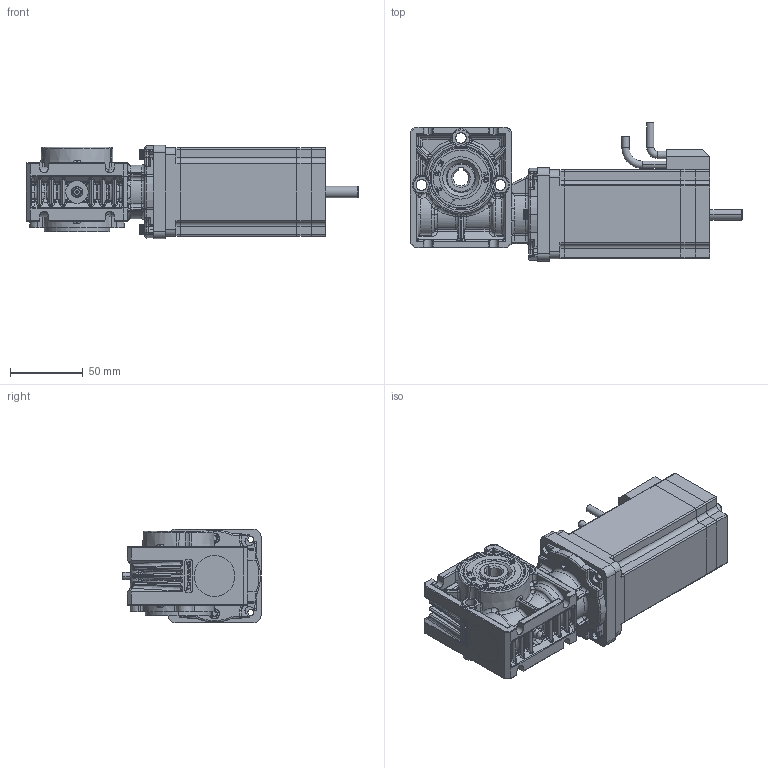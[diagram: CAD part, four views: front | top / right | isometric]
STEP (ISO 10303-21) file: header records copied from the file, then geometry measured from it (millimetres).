
FILE_DESCRIPTION (( 'STEP AP214' ), '1' );
FILE_NAME ('PBL60-70-GB28.STEP', '2024-09-14T13:24:10', ( '' ), ( '' ), 'SwSTEP 2.0', 'SolidWorks 2023', '' );
FILE_SCHEMA (( 'AUTOMOTIVE_DESIGN' ));
Length unit declared in the file: millimetre
Products named in the file (1): PBL60-70-GB28
Bounding box: 228 x 94.89 x 64 mm (x, y, z)
Volume: 601937.1 mm3; surface area: 149152 mm2
Topology: 21 solids, 21 shells, 3918 faces, 10036 edges, 6252 vertices
Faces by surface type: cylinder 1300, plane 1260, bspline 956, torus 147, cone 139, sphere 116
Entity records: 213683 total; most frequent: CARTESIAN_POINT 83330, ORIENTED_EDGE 19814, DIRECTION 15702, EDGE_CURVE 9907, VERTEX_POINT 6243, AXIS2_PLACEMENT_3D 5586, LINE 4530, VECTOR 4530
